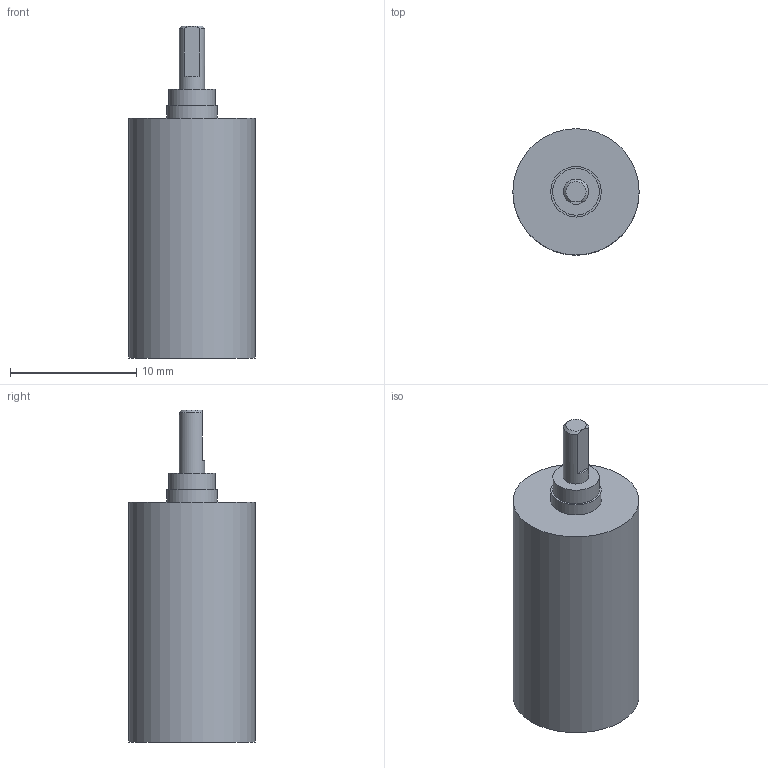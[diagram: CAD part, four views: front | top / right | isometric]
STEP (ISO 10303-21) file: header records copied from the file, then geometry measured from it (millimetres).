
FILE_DESCRIPTION(/* description */ (''),/* implementation_level */ '2;1');
FILE_NAME(/* name */ '10-1_4.stp',/* time_stamp */ '2016-08-24T08:17:05+02:00',/* author */ ('DR. FRITZ FAULHABER GmbH & Co. KG'),/* organization */ ('DR. FRITZ FAULHABER GmbH & Co. KG'),/* preprocessor_version */ 'ST-DEVELOPER v16',/* originating_system */ 'SIEMENS PLM Software NX 10.0',/* authorisation */ '');
FILE_SCHEMA (('AUTOMOTIVE_DESIGN { 1 0 10303 214 3 1 1 1 }'));
Length unit declared in the file: millimetre
Products named in the file (1): H00000410_A
Bounding box: 10 x 10 x 26.3 mm (x, y, z)
Volume: 1447.1 mm3; surface area: 881.8 mm2
Topology: 1 solids, 1 shells, 20 faces, 36 edges, 24 vertices
Faces by surface type: plane 10, cylinder 8, cone 2
Full cylindrical faces by diameter (mm): 2 x1, 3.12 x1, 3.32 x1, 3.7 x1, 4 x1, 4.959 x1, 6 x1, 10 x1
Entity records: 452 total; most frequent: DIRECTION 81, CARTESIAN_POINT 79, ORIENTED_EDGE 46, AXIS2_PLACEMENT_3D 39, EDGE_LOOP 35, FACE_BOUND 30, EDGE_CURVE 23, ADVANCED_FACE 20
